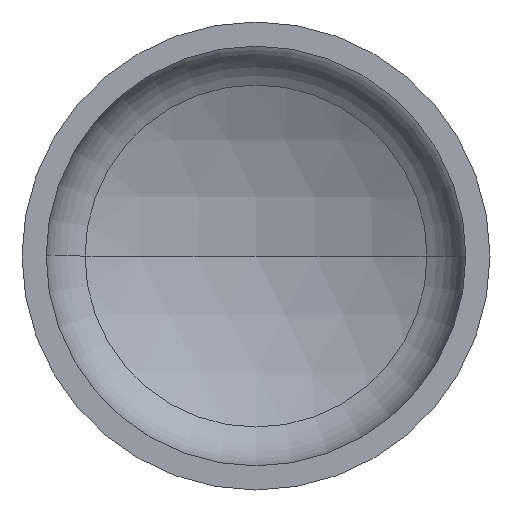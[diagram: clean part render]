
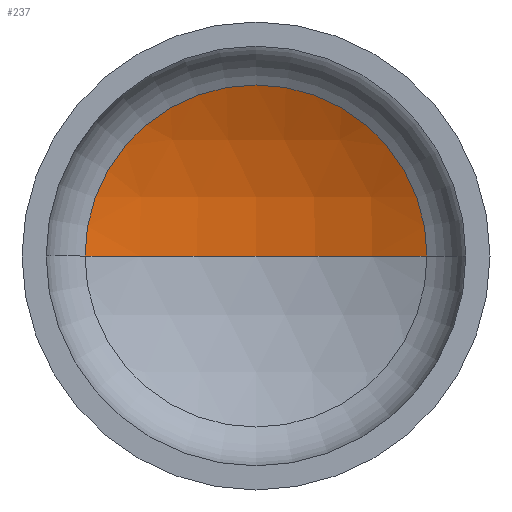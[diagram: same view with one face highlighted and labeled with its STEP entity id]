
A CAD part, front view. The second image highlights one B-rep face of the part: STEP entity #237.
In plain terms, the highlighted spherical face has radius 1520 mm.
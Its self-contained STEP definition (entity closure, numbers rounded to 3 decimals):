
#11 = AXIS2_PLACEMENT_3D ( 'NONE', #353, #388, #397 ) ;
#12 = AXIS2_PLACEMENT_3D ( 'NONE', #222, #24, #166 ) ;
#17 = AXIS2_PLACEMENT_3D ( 'NONE', #275, #69, #241 ) ;
#21 = AXIS2_PLACEMENT_3D ( 'NONE', #365, #272, #159 ) ;
#24 = DIRECTION ( 'NONE',  ( 0., 0., -1. ) ) ;
#69 = DIRECTION ( 'NONE',  ( 0., -1., 0. ) ) ;
#85 = EDGE_LOOP ( 'NONE', ( #345, #329, #108 ) ) ;
#108 = ORIENTED_EDGE ( 'NONE', *, *, #304, .T. ) ;
#125 = CIRCLE ( 'NONE', #17, 694.504 ) ;
#130 = VERTEX_POINT ( 'NONE', #131 ) ;
#131 = CARTESIAN_POINT ( 'NONE',  ( -694.504, 357.959, 0. ) ) ;
#159 = DIRECTION ( 'NONE',  ( -1., 0., 0. ) ) ;
#166 = DIRECTION ( 'NONE',  ( -1., 0., 0. ) ) ;
#177 = CIRCLE ( 'NONE', #12, 1520. ) ;
#209 = CARTESIAN_POINT ( 'NONE',  ( 694.504, 357.959, 0. ) ) ;
#222 = CARTESIAN_POINT ( 'NONE',  ( 0., -994.101, 0. ) ) ;
#237 = ADVANCED_FACE ( 'NONE', ( #277 ), #355, .F. ) ;
#241 = DIRECTION ( 'NONE',  ( 1., 0., 0. ) ) ;
#254 = CARTESIAN_POINT ( 'NONE',  ( 0., 525.899, 0. ) ) ;
#255 = CIRCLE ( 'NONE', #11, 1520. ) ;
#261 = VERTEX_POINT ( 'NONE', #209 ) ;
#272 = DIRECTION ( 'NONE',  ( 0., 0., -1. ) ) ;
#275 = CARTESIAN_POINT ( 'NONE',  ( 0., 357.959, 0. ) ) ;
#277 = FACE_OUTER_BOUND ( 'NONE', #85, .T. ) ;
#304 = EDGE_CURVE ( 'NONE', #261, #130, #125, .T. ) ;
#320 = EDGE_CURVE ( 'NONE', #408, #261, #177, .T. ) ;
#323 = EDGE_CURVE ( 'NONE', #408, #130, #255, .T. ) ;
#329 = ORIENTED_EDGE ( 'NONE', *, *, #320, .T. ) ;
#345 = ORIENTED_EDGE ( 'NONE', *, *, #323, .F. ) ;
#353 = CARTESIAN_POINT ( 'NONE',  ( 0., -994.101, 0. ) ) ;
#355 = SPHERICAL_SURFACE ( 'NONE', #21, 1520. ) ;
#365 = CARTESIAN_POINT ( 'NONE',  ( 0., -994.101, 0. ) ) ;
#388 = DIRECTION ( 'NONE',  ( 0., 0., 1. ) ) ;
#397 = DIRECTION ( 'NONE',  ( 1., 0., 0. ) ) ;
#408 = VERTEX_POINT ( 'NONE', #254 ) ;
